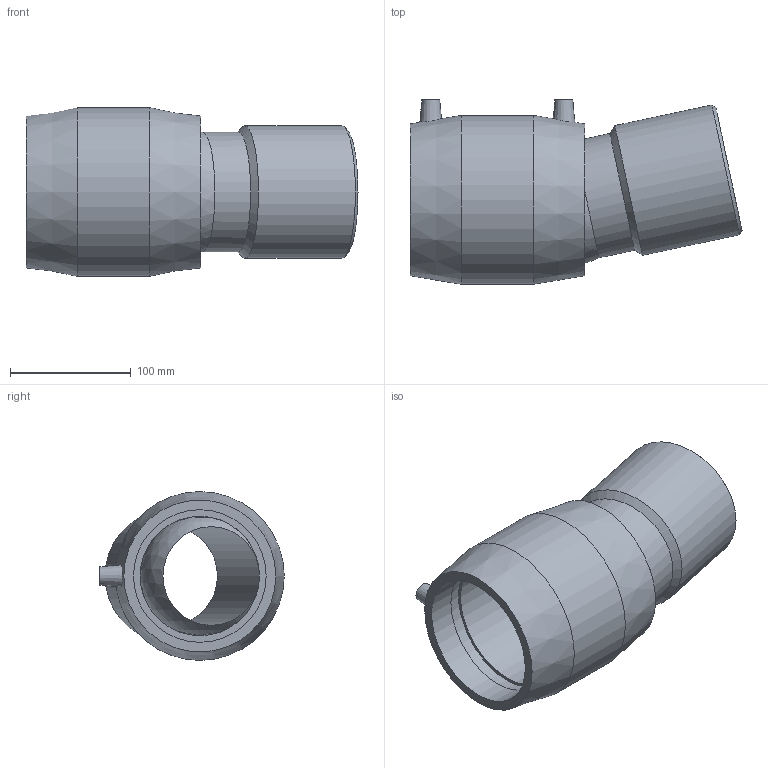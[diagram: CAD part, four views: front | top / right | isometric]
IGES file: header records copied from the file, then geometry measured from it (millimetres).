
Global section: file name: 4947D4110.ipt; native system: Autodesk Inventor 2015; preprocessor: unknown; author: KIM; date: 20190124.130459; units: millimetre
Bounding box: 275.42 x 153 x 140 mm (x, y, z)
Volume: 1379591.4 mm3; surface area: 211396.9 mm2
Topology: 1 solids, 1 shells, 32 faces, 70 edges, 47 vertices
Faces by surface type: plane 11, revolution 7, cone 6, cylinder 6, sphere 2
Full cylindrical faces by diameter (mm): 4 x2, 99 x1, 110 x1, 140 x1
